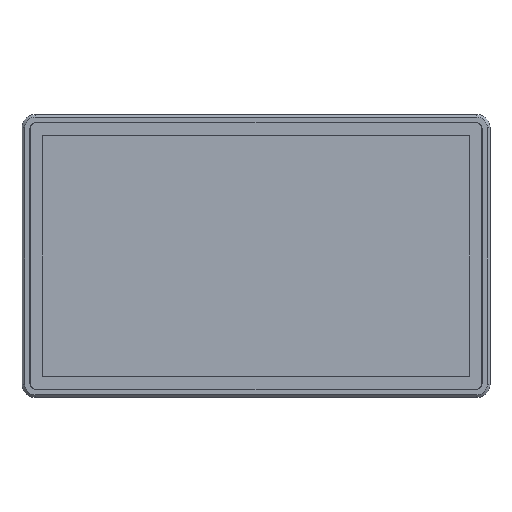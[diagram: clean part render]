
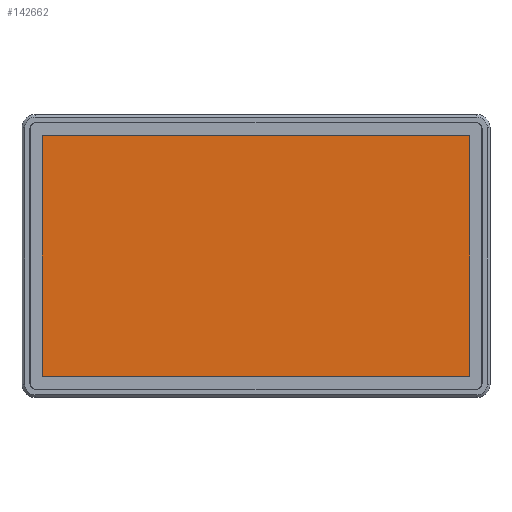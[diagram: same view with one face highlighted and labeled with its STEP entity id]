
A CAD part, top view. The second image highlights one B-rep face of the part: STEP entity #142662.
In plain terms, the highlighted planar face has unit normal (0, 0, 1).
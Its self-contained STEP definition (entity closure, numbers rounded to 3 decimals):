
#5459=PLANE('',#151745);
#21531=LINE('',#233477,#35183);
#21532=LINE('',#233479,#35184);
#21533=LINE('',#233481,#35185);
#21534=LINE('',#233482,#35186);
#35183=VECTOR('',#180846,10.);
#35184=VECTOR('',#180847,10.);
#35185=VECTOR('',#180848,10.);
#35186=VECTOR('',#180849,10.);
#44465=FACE_OUTER_BOUND('',#52187,.T.);
#52187=EDGE_LOOP('',(#121195,#121196,#121197,#121198));
#67250=VERTEX_POINT('',#233475);
#67251=VERTEX_POINT('',#233476);
#67252=VERTEX_POINT('',#233478);
#67253=VERTEX_POINT('',#233480);
#85732=EDGE_CURVE('',#67250,#67251,#21531,.T.);
#85733=EDGE_CURVE('',#67250,#67252,#21532,.T.);
#85734=EDGE_CURVE('',#67252,#67253,#21533,.T.);
#85735=EDGE_CURVE('',#67251,#67253,#21534,.T.);
#121195=ORIENTED_EDGE('',*,*,#85735,.T.);
#121196=ORIENTED_EDGE('',*,*,#85734,.F.);
#121197=ORIENTED_EDGE('',*,*,#85733,.F.);
#121198=ORIENTED_EDGE('',*,*,#85732,.T.);
#142662=ADVANCED_FACE('',(#44465),#5459,.T.);
#151745=AXIS2_PLACEMENT_3D('',#233497,#180867,#180868);
#180846=DIRECTION('',(1.,0.,0.));
#180847=DIRECTION('',(0.,1.,0.));
#180848=DIRECTION('',(1.,0.,0.));
#180849=DIRECTION('',(0.,1.,0.));
#180867=DIRECTION('center_axis',(0.,0.,
1.));
#180868=DIRECTION('ref_axis',(-1.,0.,0.));
#233475=CARTESIAN_POINT('',(-470.6,-264.74,5.1));
#233476=CARTESIAN_POINT('',(470.6,-264.74,5.1));
#233477=CARTESIAN_POINT('',(235.3,-264.74,5.1));
#233478=CARTESIAN_POINT('',(-470.6,264.71,5.1));
#233479=CARTESIAN_POINT('',(-470.6,-264.74,5.1));
#233480=CARTESIAN_POINT('',(470.6,264.71,5.1));
#233481=CARTESIAN_POINT('',(-470.6,264.71,5.1));
#233482=CARTESIAN_POINT('',(470.6,132.355,5.1));
#233497=CARTESIAN_POINT('Origin',(0.,0.,
5.1));
